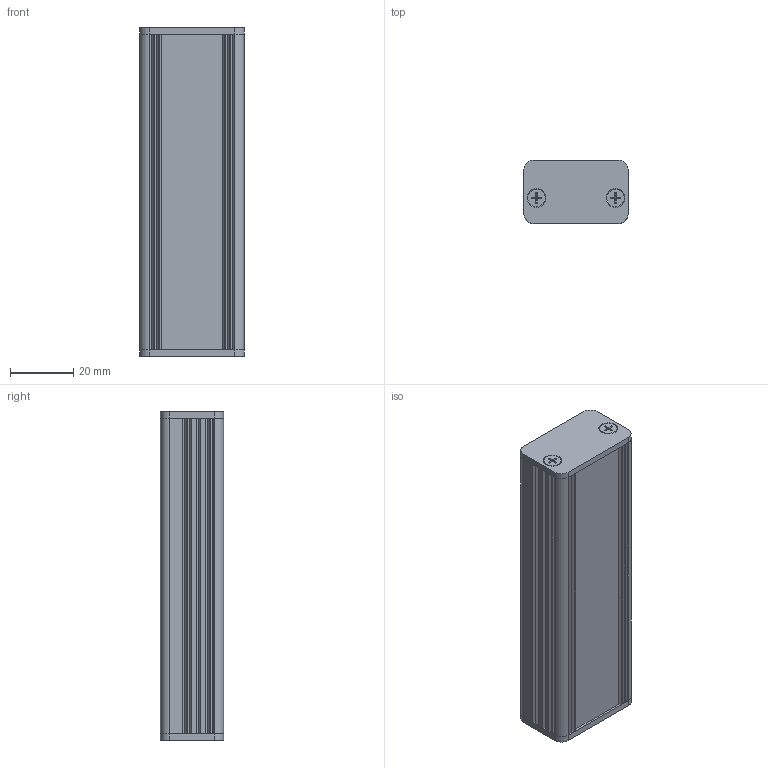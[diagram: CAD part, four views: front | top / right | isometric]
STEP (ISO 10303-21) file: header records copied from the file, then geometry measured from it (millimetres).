
FILE_DESCRIPTION((''),'2;1');
FILE_NAME('C:\Dokumente und Einstellungen\Lochen\Desktop\AKG\AKG_33_20_100.stp','2015-01-15T13:33:42',('Lochen'),(''),'Autodesk Inventor 2012','Autodesk Inventor 2012','');
FILE_SCHEMA(('AUTOMOTIVE_DESIGN { 1 0 10303 214 1 1 1 1 }'));
Length unit declared in the file: millimetre
Products named in the file (5): 001037633; 001031967; 001032030; L0015SGD000010A; DIN EN ISO 7046-1 H M3 x 10 - 4.8 - H
Assembly tree (8 placements, depth 2):
  001037633
    001031967
    001032030
    L0015SGD000010A  x2
    DIN EN ISO 7046-1 H M3 x 10 - 4.8 - H  x4
Bounding box: 33 x 20 x 104 mm (x, y, z)
Volume: 22653 mm3; surface area: 28968.3 mm2
Topology: 8 solids, 8 shells, 364 faces, 1016 edges, 668 vertices
Faces by surface type: plane 148, cylinder 144, cone 52, torus 20
Full cylindrical faces by diameter (mm): 2.693 x4, 3 x4, 3.4 x4, 5.5 x4
Entity records: 8800 total; most frequent: CARTESIAN_POINT 1625, DIRECTION 1538, ORIENTED_EDGE 1468, EDGE_CURVE 734, AXIS2_PLACEMENT_3D 551, VERTEX_POINT 494, VECTOR 436, LINE 436
